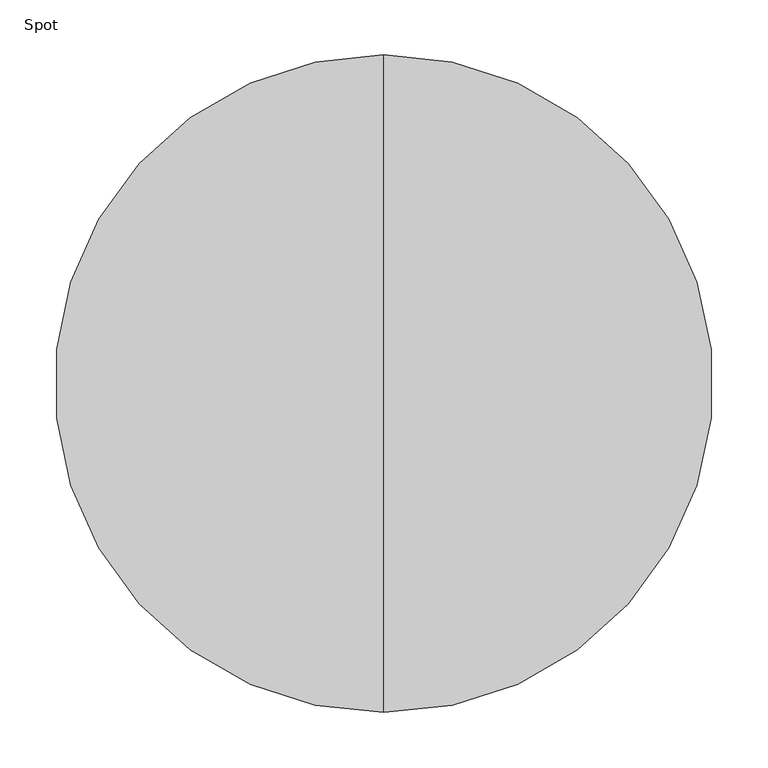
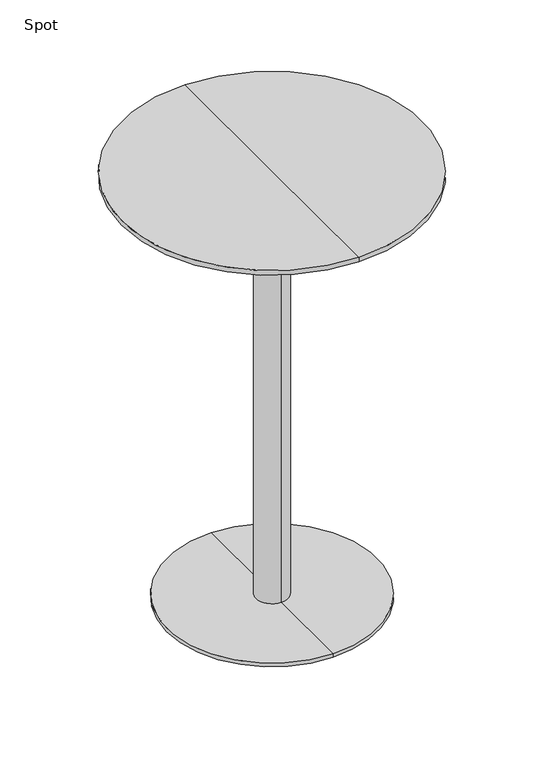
"""IFC4 building model written with IfcOpenShell, lengths in millimetres: furniture geometry, Spot : Bø60x90."""

from ifc_helpers import new_model, si_unit, frame, origin, place, context, project, spatial, polyline, circle_curve, source, transform, mapped, element, save
from ifc_brep_helpers import plane_surface, cylinder_surface, revolved_surface, advanced_brep


def spot_7a6d4907(model_context):
    return source(origin(), model_context, "Body", "AdvancedBrep", [
        advanced_brep(
        [(0.0, -300.0, 900.0), (0.0, 300.0, 900.0), (0.0, 0.0, 900.0), (0.0, 300.0, 890.25), (0.0, -300.0, 890.25), (0.0, 0.0, 878.0), (0.0, -254.2823776, 878.0), (0.0, 254.2823776, 878.0)],
        [
            (0, 1, circle_curve(frame((0.0, 0.0, 900.0), z_axis=(0.0, 0.0, 1.0), x_axis=(0.0, -1.0, 0.0)), 300.0)),
            (1, 2),
            (2, 0),
            (3, 4, circle_curve(frame((0.0, 0.0, 890.25), z_axis=(0.0, 0.0, 1.0), x_axis=(0.0, -1.0, 0.0)), 300.0)),
            (4, 0),
            (0, 1, circle_curve(frame((0.0, 0.0, 900.0), z_axis=(0.0, 0.0, -1.0), x_axis=(0.0, -1.0, 0.0)), 300.0)),
            (1, 3),
            (5, 6),
            (6, 7, circle_curve(frame((0.0, 0.0, 878.0), z_axis=(0.0, 0.0, -1.0), x_axis=(0.0, -1.0, 0.0)), 254.2823776)),
            (7, 5),
            (7, 6, circle_curve(frame((0.0, 0.0, 878.0), z_axis=(0.0, 0.0, -1.0), x_axis=(0.0, -1.0, 0.0)), 254.2823776)),
            (4, 3, circle_curve(frame((0.0, 0.0, 890.25), z_axis=(0.0, 0.0, 1.0), x_axis=(0.0, -1.0, 0.0)), 300.0)),
            (6, 4),
            (3, 7),
        ],
        [
            plane_surface(frame((0.0, 0.0, 900.0), z_axis=(0.0, 0.0, 1.0), x_axis=(0.0, -1.0, 0.0))),
            cylinder_surface(frame((0.0, 0.0, 980.0), z_axis=(0.0, 0.0, -1.0), x_axis=(0.0, -1.0, 0.0)), 300.0),
            plane_surface(frame((0.0, 0.0, 878.0), z_axis=(0.0, 0.0, -1.0), x_axis=(0.0, -1.0, 0.0))),
            revolved_surface(polyline([(0.0, -300.0, 890.25), (0.0, -254.2823776, 878.0)]), (0.0, 0.0, 980.0), (0.0, 0.0, -1.0)),
        ],
        [
            (0, [[1, 2, 3]]),
            (1, [[4, 5, 6, 7]]),
            (2, [[8, 9, 10]]),
            (2, [[-10, 11, -8]]),
            (0, [[-6, -3, -2]]),
            (1, [[12, -7, -1, -5]]),
            (3, [[-9, 13, -4, 14]]),
            (3, [[-11, -14, -12, -13]]),
        ],
    ),
        advanced_brep(
        [(0.0, 32.0, 10.0), (0.0, -32.0, 10.0), (0.0, -32.0, 847.406916), (0.0, 32.0, 847.406916), (0.0, 210.0, 10.0), (0.0, -210.0, 10.0), (0.0, 210.0, 2.0), (0.0, -210.0, 2.0), (0.0, 0.0, 2.0), (0.0, 150.0, 878.0), (0.0, -150.0, 878.0), (0.0, 0.0, 878.0), (0.0, 150.0, 866.7213673), (0.0, -150.0, 866.7213673)],
        [
            (0, 1, circle_curve(frame((0.0, 0.0, 10.0), z_axis=(0.0, 0.0, 1.0), x_axis=(0.0, -1.0, 0.0)), 32.0)),
            (1, 2),
            (2, 3, circle_curve(frame((0.0, 0.0, 847.406916), z_axis=(0.0, 0.0, -1.0), x_axis=(0.0, -1.0, 0.0)), 32.0)),
            (3, 0),
            (1, 0, circle_curve(frame((0.0, 0.0, 10.0), z_axis=(0.0, 0.0, 1.0), x_axis=(0.0, -1.0, 0.0)), 32.0)),
            (3, 2, circle_curve(frame((0.0, 0.0, 847.406916), z_axis=(0.0, 0.0, -1.0), x_axis=(0.0, -1.0, 0.0)), 32.0)),
            (4, 5, circle_curve(frame((0.0, 0.0, 10.0), z_axis=(0.0, 0.0, 1.0), x_axis=(0.0, -1.0, 0.0)), 210.0)),
            (5, 1),
            (0, 4),
            (5, 4, circle_curve(frame((0.0, 0.0, 10.0), z_axis=(0.0, 0.0, 1.0), x_axis=(0.0, -1.0, 0.0)), 210.0)),
            (6, 7, circle_curve(frame((0.0, 0.0, 2.0), z_axis=(0.0, 0.0, 1.0), x_axis=(0.0, -1.0, 0.0)), 210.0)),
            (7, 5),
            (4, 6),
            (7, 6, circle_curve(frame((0.0, 0.0, 2.0), z_axis=(0.0, 0.0, 1.0), x_axis=(0.0, -1.0, 0.0)), 210.0)),
            (8, 7),
            (6, 8),
            (9, 10, circle_curve(frame((0.0, 0.0, 878.0), z_axis=(0.0, 0.0, 1.0), x_axis=(0.0, -1.0, 0.0)), 150.0)),
            (10, 11),
            (11, 9),
            (10, 9, circle_curve(frame((0.0, 0.0, 878.0), z_axis=(0.0, 0.0, 1.0), x_axis=(0.0, -1.0, 0.0)), 150.0)),
            (12, 13, circle_curve(frame((0.0, 0.0, 866.7213673), z_axis=(0.0, 0.0, 1.0), x_axis=(0.0, -1.0, 0.0)), 150.0)),
            (13, 10),
            (9, 12),
            (13, 12, circle_curve(frame((0.0, 0.0, 866.7213673), z_axis=(0.0, 0.0, 1.0), x_axis=(0.0, -1.0, 0.0)), 150.0)),
            (2, 13),
            (12, 3),
        ],
        [
            cylinder_surface(frame((0.0, 0.0, 1240.0), z_axis=(0.0, 0.0, -1.0), x_axis=(0.0, -1.0, 0.0)), 32.0),
            plane_surface(frame((0.0, 0.0, 10.0), z_axis=(0.0, 0.0, 1.0), x_axis=(0.0, -1.0, 0.0))),
            cylinder_surface(frame((0.0, 0.0, 1240.0), z_axis=(0.0, 0.0, -1.0), x_axis=(0.0, -1.0, 0.0)), 210.0),
            plane_surface(frame((0.0, 0.0, 2.0), z_axis=(0.0, 0.0, -1.0), x_axis=(0.0, -1.0, 0.0))),
            plane_surface(frame((0.0, 0.0, 878.0), z_axis=(0.0, 0.0, 1.0), x_axis=(0.0, -1.0, 0.0))),
            cylinder_surface(frame((0.0, 0.0, 1240.0), z_axis=(0.0, 0.0, -1.0), x_axis=(0.0, -1.0, 0.0)), 150.0),
            revolved_surface(polyline([(0.0, -150.0, 866.7213673), (0.0, -32.0, 847.406916)]), (0.0, 0.0, 1240.0), (0.0, 0.0, -1.0)),
        ],
        [
            (0, [[1, 2, 3, 4]]),
            (0, [[5, -4, 6, -2]]),
            (1, [[7, 8, -1, 9]]),
            (1, [[10, -9, -5, -8]]),
            (2, [[11, 12, -7, 13]]),
            (2, [[14, -13, -10, -12]]),
            (3, [[15, -11, 16]]),
            (3, [[-16, -14, -15]]),
            (4, [[17, 18, 19]]),
            (4, [[20, -19, -18]]),
            (5, [[21, 22, -17, 23]]),
            (5, [[24, -23, -20, -22]]),
            (6, [[-3, 25, -21, 26]]),
            (6, [[-6, -26, -24, -25]]),
        ],
    ),
    ])


if __name__ == "__main__":
    model = new_model("IFC4")
    model_context = context("Model", 3, world=origin())
    ifc_project = project(units=[si_unit("LENGTHUNIT", "METRE", prefix="MILLI")], contexts=[model_context])
    site = spatial("IfcSite", under=ifc_project)
    building = spatial("IfcBuilding", under=site)
    placement = place(None, origin())
    spot_shape = spot_7a6d4907(model_context)
    element("IfcFurniture", 1, ObjectType="Spot : Bø60x90", at=placement, inside=building, context=model_context, shape_type="MappedRepresentation", body=[
        mapped(spot_shape, transform((0.0, 0.0, 0.0), x_axis=(1.0, 0.0, 0.0), y_axis=(0.0, 1.0, 0.0), z_axis=(0.0, 0.0, 1.0))),
    ])
    save(model, "model.ifc")
